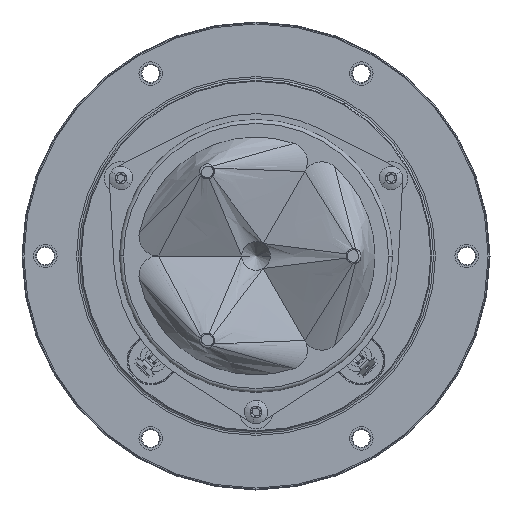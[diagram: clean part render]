
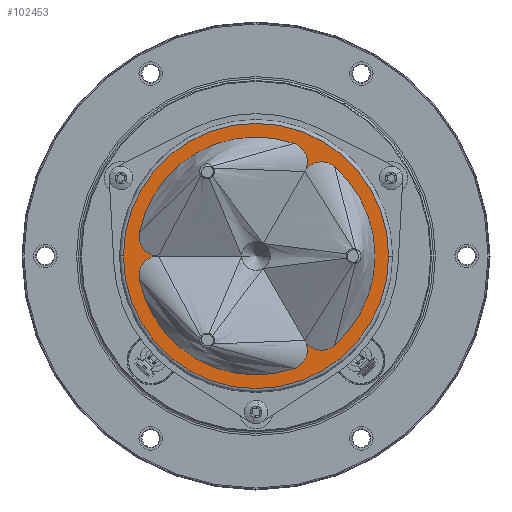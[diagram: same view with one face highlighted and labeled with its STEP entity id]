
A CAD part, front view. The second image highlights one B-rep face of the part: STEP entity #102453.
In plain terms, the highlighted planar face has unit normal (0, -1, 0).
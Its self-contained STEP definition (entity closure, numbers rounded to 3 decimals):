
#4594 = VERTEX_POINT ( 'NONE', #62674 ) ;
#6996 = CARTESIAN_POINT ( 'NONE',  ( -29.908, -14.6, -5.98 ) ) ;
#10293 = EDGE_CURVE ( 'NONE', #105651, #36792, #113263, .T. ) ;
#10344 = DIRECTION ( 'NONE',  ( 0., 1., 0. ) ) ;
#14281 = EDGE_CURVE ( 'NONE', #20753, #198774, #104368, .T. ) ;
#14923 = CARTESIAN_POINT ( 'NONE',  ( 16.833, -14.6, -19.155 ) ) ;
#19631 = ORIENTED_EDGE ( 'NONE', *, *, #10293, .T. ) ;
#20753 = VERTEX_POINT ( 'NONE', #120539 ) ;
#21918 = VERTEX_POINT ( 'NONE', #52593 ) ;
#23554 = DIRECTION ( 'NONE',  ( 0., 1., 0. ) ) ;
#26640 = DIRECTION ( 'NONE',  ( 1., 0., 0. ) ) ;
#27694 = AXIS2_PLACEMENT_3D ( 'NONE', #53587, #10344, #56531 ) ;
#28290 = ORIENTED_EDGE ( 'NONE', *, *, #149605, .T. ) ;
#31331 = DIRECTION ( 'NONE',  ( 0., 1., 0. ) ) ;
#33528 = CIRCLE ( 'NONE', #168176, 5. ) ;
#36180 = DIRECTION ( 'NONE',  ( -0.5, 0., -0.866 ) ) ;
#36530 = AXIS2_PLACEMENT_3D ( 'NONE', #135673, #45411, #181972 ) ;
#36792 = VERTEX_POINT ( 'NONE', #166050 ) ;
#38479 = AXIS2_PLACEMENT_3D ( 'NONE', #161188, #82033, #172407 ) ;
#40758 = DIRECTION ( 'NONE',  ( 0., -1., 0. ) ) ;
#43042 = DIRECTION ( 'NONE',  ( -0.5, 0., 0.866 ) ) ;
#43434 = PLANE ( 'NONE',  #36530 ) ;
#43963 = DIRECTION ( 'NONE',  ( 0., 1., 0. ) ) ;
#44505 = VERTEX_POINT ( 'NONE', #157350 ) ;
#45393 = CARTESIAN_POINT ( 'NONE',  ( -25.005, -14.6, 5. ) ) ;
#45411 = DIRECTION ( 'NONE',  ( 0., 1., 0. ) ) ;
#45983 = CARTESIAN_POINT ( 'NONE',  ( 0., -14.6, 0. ) ) ;
#51057 = EDGE_CURVE ( 'NONE', #175951, #21918, #153719, .T. ) ;
#52031 = ORIENTED_EDGE ( 'NONE', *, *, #59257, .T. ) ;
#52097 = EDGE_LOOP ( 'NONE', ( #52031, #83343 ) ) ;
#52593 = CARTESIAN_POINT ( 'NONE',  ( 34., -14.6, 0. ) ) ;
#53587 = CARTESIAN_POINT ( 'NONE',  ( 0., -14.6, 0. ) ) ;
#54277 = ORIENTED_EDGE ( 'NONE', *, *, #151205, .T. ) ;
#54713 = CARTESIAN_POINT ( 'NONE',  ( 8.172, -14.6, 24.155 ) ) ;
#56033 = CIRCLE ( 'NONE', #91479, 5. ) ;
#56531 = DIRECTION ( 'NONE',  ( -0.5, 0., -0.866 ) ) ;
#57082 = DIRECTION ( 'NONE',  ( -0.5, 0., -0.866 ) ) ;
#59257 = EDGE_CURVE ( 'NONE', #21918, #175951, #65173, .T. ) ;
#59427 = ORIENTED_EDGE ( 'NONE', *, *, #14281, .T. ) ;
#61792 = ORIENTED_EDGE ( 'NONE', *, *, #84697, .T. ) ;
#62674 = CARTESIAN_POINT ( 'NONE',  ( 9.775, -14.6, 28.891 ) ) ;
#65173 = CIRCLE ( 'NONE', #187040, 34. ) ;
#65688 = CARTESIAN_POINT ( 'NONE',  ( -25.005, -14.6, 0. ) ) ;
#66550 = CARTESIAN_POINT ( 'NONE',  ( 12.502, -14.6, 21.655 ) ) ;
#67589 = AXIS2_PLACEMENT_3D ( 'NONE', #45983, #148371, #43042 ) ;
#70788 = DIRECTION ( 'NONE',  ( -0.5, 0., 0.866 ) ) ;
#73490 = AXIS2_PLACEMENT_3D ( 'NONE', #90043, #151238, #192686 ) ;
#74721 = ORIENTED_EDGE ( 'NONE', *, *, #97894, .T. ) ;
#74994 = AXIS2_PLACEMENT_3D ( 'NONE', #181515, #43963, #57082 ) ;
#76028 = VERTEX_POINT ( 'NONE', #173152 ) ;
#80322 = CIRCLE ( 'NONE', #67589, 30.5 ) ;
#82033 = DIRECTION ( 'NONE',  ( 0., -1., 0. ) ) ;
#83343 = ORIENTED_EDGE ( 'NONE', *, *, #51057, .T. ) ;
#84697 = EDGE_CURVE ( 'NONE', #76028, #44505, #176078, .T. ) ;
#90043 = CARTESIAN_POINT ( 'NONE',  ( 0., -14.6, 0. ) ) ;
#91479 = AXIS2_PLACEMENT_3D ( 'NONE', #14923, #133321, #164476 ) ;
#91628 = DIRECTION ( 'NONE',  ( 0., 1., 0. ) ) ;
#95116 = EDGE_CURVE ( 'NONE', #129768, #76028, #192517, .T. ) ;
#95604 = CARTESIAN_POINT ( 'NONE',  ( 16.833, -14.6, 19.155 ) ) ;
#97894 = EDGE_CURVE ( 'NONE', #133991, #20753, #174443, .T. ) ;
#98827 = CARTESIAN_POINT ( 'NONE',  ( 12.502, -14.6, -21.655 ) ) ;
#102453 = ADVANCED_FACE ( 'NONE', ( #139668, #168852 ), #43434, .F. ) ;
#104368 = CIRCLE ( 'NONE', #27694, 30.5 ) ;
#105651 = VERTEX_POINT ( 'NONE', #65688 ) ;
#109804 = AXIS2_PLACEMENT_3D ( 'NONE', #54713, #23554, #70788 ) ;
#113263 = CIRCLE ( 'NONE', #180734, 5. ) ;
#119784 = EDGE_CURVE ( 'NONE', #198774, #105651, #33528, .T. ) ;
#120539 = CARTESIAN_POINT ( 'NONE',  ( 9.775, -14.6, -28.891 ) ) ;
#124820 = EDGE_LOOP ( 'NONE', ( #28290, #179744, #61792, #179910, #74721, #59427, #185163, #19631, #54277 ) ) ;
#124840 = EDGE_CURVE ( 'NONE', #44505, #133991, #56033, .T. ) ;
#125359 = CARTESIAN_POINT ( 'NONE',  ( -25.005, -14.6, -5. ) ) ;
#129768 = VERTEX_POINT ( 'NONE', #66550 ) ;
#133321 = DIRECTION ( 'NONE',  ( 0., 1., 0. ) ) ;
#133991 = VERTEX_POINT ( 'NONE', #98827 ) ;
#134233 = CARTESIAN_POINT ( 'NONE',  ( -34., -14.6, 0. ) ) ;
#135673 = CARTESIAN_POINT ( 'NONE',  ( 0., -14.6, 0. ) ) ;
#139668 = FACE_OUTER_BOUND ( 'NONE', #52097, .T. ) ;
#143540 = DIRECTION ( 'NONE',  ( 0., 1., 0. ) ) ;
#144240 = AXIS2_PLACEMENT_3D ( 'NONE', #95604, #91628, #170912 ) ;
#148371 = DIRECTION ( 'NONE',  ( 0., 1., 0. ) ) ;
#149605 = EDGE_CURVE ( 'NONE', #4594, #129768, #190246, .T. ) ;
#151205 = EDGE_CURVE ( 'NONE', #36792, #4594, #80322, .T. ) ;
#151238 = DIRECTION ( 'NONE',  ( 0., 1., 0. ) ) ;
#153719 = CIRCLE ( 'NONE', #38479, 34. ) ;
#157350 = CARTESIAN_POINT ( 'NONE',  ( 20.133, -14.6, -22.911 ) ) ;
#161188 = CARTESIAN_POINT ( 'NONE',  ( 0., -14.6, 0. ) ) ;
#164476 = DIRECTION ( 'NONE',  ( 1., 0., 0. ) ) ;
#166050 = CARTESIAN_POINT ( 'NONE',  ( -29.908, -14.6, 5.98 ) ) ;
#168176 = AXIS2_PLACEMENT_3D ( 'NONE', #125359, #143540, #36180 ) ;
#168852 = FACE_BOUND ( 'NONE', #124820, .T. ) ;
#170912 = DIRECTION ( 'NONE',  ( 1., 0., 0. ) ) ;
#172407 = DIRECTION ( 'NONE',  ( 1., 0., 0. ) ) ;
#173152 = CARTESIAN_POINT ( 'NONE',  ( 20.133, -14.6, 22.911 ) ) ;
#174443 = CIRCLE ( 'NONE', #74994, 5. ) ;
#175951 = VERTEX_POINT ( 'NONE', #134233 ) ;
#176078 = CIRCLE ( 'NONE', #73490, 30.5 ) ;
#179744 = ORIENTED_EDGE ( 'NONE', *, *, #95116, .T. ) ;
#179910 = ORIENTED_EDGE ( 'NONE', *, *, #124840, .T. ) ;
#180734 = AXIS2_PLACEMENT_3D ( 'NONE', #45393, #31331, #198153 ) ;
#181515 = CARTESIAN_POINT ( 'NONE',  ( 8.172, -14.6, -24.155 ) ) ;
#181972 = DIRECTION ( 'NONE',  ( 1., 0., 0. ) ) ;
#185163 = ORIENTED_EDGE ( 'NONE', *, *, #119784, .T. ) ;
#187040 = AXIS2_PLACEMENT_3D ( 'NONE', #193450, #40758, #26640 ) ;
#190246 = CIRCLE ( 'NONE', #109804, 5. ) ;
#192517 = CIRCLE ( 'NONE', #144240, 5. ) ;
#192686 = DIRECTION ( 'NONE',  ( 1., 0., 0. ) ) ;
#193450 = CARTESIAN_POINT ( 'NONE',  ( 0., -14.6, 0. ) ) ;
#198153 = DIRECTION ( 'NONE',  ( -0.5, 0., 0.866 ) ) ;
#198774 = VERTEX_POINT ( 'NONE', #6996 ) ;
